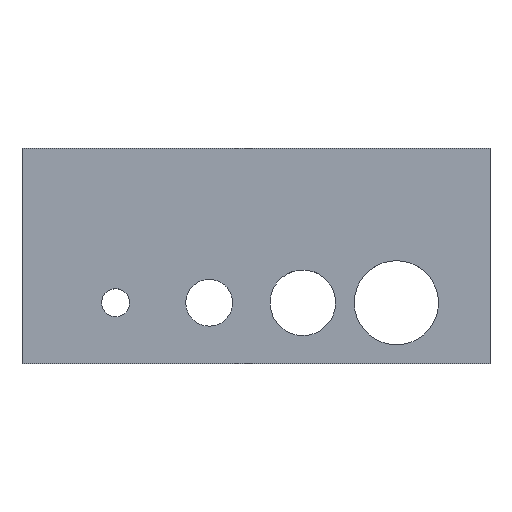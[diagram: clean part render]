
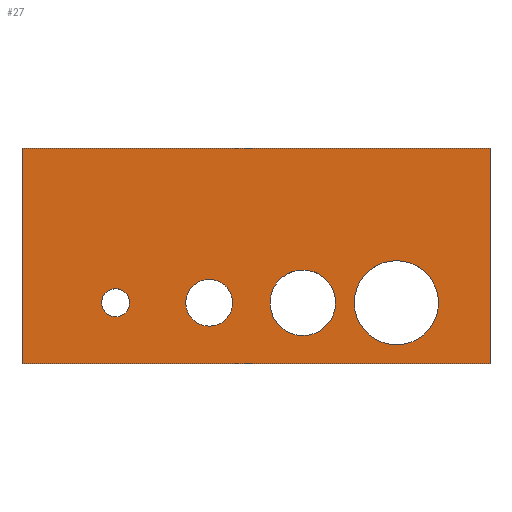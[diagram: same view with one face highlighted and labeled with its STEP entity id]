
A CAD part, top view. The second image highlights one B-rep face of the part: STEP entity #27.
In plain terms, the highlighted planar face has unit normal (0, 0, 1).
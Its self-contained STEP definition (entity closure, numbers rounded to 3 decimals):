
#18=FACE_BOUND('',#60,.T.);
#19=FACE_BOUND('',#61,.T.);
#20=FACE_BOUND('',#62,.T.);
#21=FACE_BOUND('',#63,.T.);
#27=ADVANCED_FACE('',(#41,#18,#19,#20,#21),#269,.T.);
#41=FACE_OUTER_BOUND('',#59,.T.);
#59=EDGE_LOOP('',(#100,#101,#102,#103));
#60=EDGE_LOOP('',(#104,#105));
#61=EDGE_LOOP('',(#106,#107));
#62=EDGE_LOOP('',(#108,#109));
#63=EDGE_LOOP('',(#110,#111));
#100=ORIENTED_EDGE('',*,*,#146,.T.);
#101=ORIENTED_EDGE('',*,*,#150,.T.);
#102=ORIENTED_EDGE('',*,*,#153,.T.);
#103=ORIENTED_EDGE('',*,*,#155,.T.);
#104=ORIENTED_EDGE('',*,*,#156,.T.);
#105=ORIENTED_EDGE('',*,*,#169,.T.);
#106=ORIENTED_EDGE('',*,*,#159,.T.);
#107=ORIENTED_EDGE('',*,*,#172,.T.);
#108=ORIENTED_EDGE('',*,*,#162,.T.);
#109=ORIENTED_EDGE('',*,*,#175,.T.);
#110=ORIENTED_EDGE('',*,*,#165,.T.);
#111=ORIENTED_EDGE('',*,*,#178,.T.);
#146=EDGE_CURVE('',#235,#234,#222,.T.);
#150=EDGE_CURVE('',#234,#237,#226,.T.);
#153=EDGE_CURVE('',#237,#239,#229,.T.);
#155=EDGE_CURVE('',#239,#235,#231,.T.);
#156=EDGE_CURVE('',#241,#248,#188,.T.);
#159=EDGE_CURVE('',#243,#250,#190,.T.);
#162=EDGE_CURVE('',#245,#252,#192,.T.);
#165=EDGE_CURVE('',#247,#254,#194,.T.);
#169=EDGE_CURVE('',#248,#241,#196,.T.);
#172=EDGE_CURVE('',#250,#243,#198,.T.);
#175=EDGE_CURVE('',#252,#245,#200,.T.);
#178=EDGE_CURVE('',#254,#247,#202,.T.);
#188=TRIMMED_CURVE($,#204,(#503),(#504),.T.,.CARTESIAN.);
#190=TRIMMED_CURVE($,#206,(#511),(#512),.T.,.CARTESIAN.);
#192=TRIMMED_CURVE($,#208,(#519),(#520),.T.,.CARTESIAN.);
#194=TRIMMED_CURVE($,#210,(#527),(#528),.T.,.CARTESIAN.);
#196=TRIMMED_CURVE($,#212,(#537),(#538),.T.,.CARTESIAN.);
#198=TRIMMED_CURVE($,#214,(#545),(#546),.T.,.CARTESIAN.);
#200=TRIMMED_CURVE($,#216,(#553),(#554),.T.,.CARTESIAN.);
#202=TRIMMED_CURVE($,#218,(#561),(#562),.T.,.CARTESIAN.);
#204=CIRCLE('',#372,1.5);
#206=CIRCLE('',#374,2.5);
#208=CIRCLE('',#376,3.5);
#210=CIRCLE('',#378,4.5);
#212=CIRCLE('',#380,1.5);
#214=CIRCLE('',#382,2.5);
#216=CIRCLE('',#384,3.5);
#218=CIRCLE('',#386,4.5);
#222=B_SPLINE_CURVE_WITH_KNOTS('',1,(#482,#483),.UNSPECIFIED.,.F.,.F.,(2,
2),(0.,23.),.UNSPECIFIED.);
#226=B_SPLINE_CURVE_WITH_KNOTS('',1,(#490,#491),.UNSPECIFIED.,.F.,.F.,(2,
2),(23.,73.),.UNSPECIFIED.);
#229=B_SPLINE_CURVE_WITH_KNOTS('',1,(#496,#497),.UNSPECIFIED.,.F.,.F.,(2,
2),(73.,96.),.UNSPECIFIED.);
#231=B_SPLINE_CURVE_WITH_KNOTS('',1,(#500,#501),.UNSPECIFIED.,.F.,.F.,(2,
2),(96.,146.),.UNSPECIFIED.);
#234=VERTEX_POINT('',#456);
#235=VERTEX_POINT('',#457);
#237=VERTEX_POINT('',#459);
#239=VERTEX_POINT('',#461);
#241=VERTEX_POINT('',#463);
#243=VERTEX_POINT('',#465);
#245=VERTEX_POINT('',#467);
#247=VERTEX_POINT('',#469);
#248=VERTEX_POINT('',#470);
#250=VERTEX_POINT('',#472);
#252=VERTEX_POINT('',#474);
#254=VERTEX_POINT('',#476);
#269=PLANE('',#363);
#363=AXIS2_PLACEMENT_3D('',#445,#396,$);
#372=AXIS2_PLACEMENT_3D($,#502,#405,#406);
#374=AXIS2_PLACEMENT_3D($,#510,#409,#410);
#376=AXIS2_PLACEMENT_3D($,#518,#413,#414);
#378=AXIS2_PLACEMENT_3D($,#526,#417,#418);
#380=AXIS2_PLACEMENT_3D($,#536,#421,#422);
#382=AXIS2_PLACEMENT_3D($,#544,#425,#426);
#384=AXIS2_PLACEMENT_3D($,#552,#429,#430);
#386=AXIS2_PLACEMENT_3D($,#560,#433,#434);
#396=DIRECTION('',(0.,0.,1.));
#405=DIRECTION('',(0.,0.,-1.));
#406=DIRECTION('',(1.,0.,0.));
#409=DIRECTION('',(0.,0.,-1.));
#410=DIRECTION('',(1.,0.,0.));
#413=DIRECTION('',(0.,0.,-1.));
#414=DIRECTION('',(1.,0.,0.));
#417=DIRECTION('',(0.,0.,-1.));
#418=DIRECTION('',(1.,0.,0.));
#421=DIRECTION('',(0.,0.,-1.));
#422=DIRECTION('',(-1.,0.,0.));
#425=DIRECTION('',(0.,0.,-1.));
#426=DIRECTION('',(-1.,0.,0.));
#429=DIRECTION('',(0.,0.,-1.));
#430=DIRECTION('',(-1.,0.,0.));
#433=DIRECTION('',(0.,0.,-1.));
#434=DIRECTION('',(-1.,0.,0.));
#445=CARTESIAN_POINT('',(977.831,2.796,14.));
#456=CARTESIAN_POINT('',(977.831,25.796,14.));
#457=CARTESIAN_POINT('',(977.831,2.796,14.));
#459=CARTESIAN_POINT('',(927.831,25.796,14.));
#461=CARTESIAN_POINT('',(927.831,2.796,14.));
#463=CARTESIAN_POINT('',(939.331,9.296,14.));
#465=CARTESIAN_POINT('',(950.331,9.296,14.));
#467=CARTESIAN_POINT('',(961.331,9.296,14.));
#469=CARTESIAN_POINT('',(972.331,9.296,14.));
#470=CARTESIAN_POINT('',(936.331,9.296,14.));
#472=CARTESIAN_POINT('',(945.331,9.296,14.));
#474=CARTESIAN_POINT('',(954.331,9.296,14.));
#476=CARTESIAN_POINT('',(963.331,9.296,14.));
#482=CARTESIAN_POINT('',(977.831,2.796,14.));
#483=CARTESIAN_POINT('',(977.831,25.796,14.));
#490=CARTESIAN_POINT('',(977.831,25.796,14.));
#491=CARTESIAN_POINT('',(927.831,25.796,14.));
#496=CARTESIAN_POINT('',(927.831,25.796,14.));
#497=CARTESIAN_POINT('',(927.831,2.796,14.));
#500=CARTESIAN_POINT('',(927.831,2.796,14.));
#501=CARTESIAN_POINT('',(977.831,2.796,14.));
#502=CARTESIAN_POINT('',(937.831,9.296,14.));
#503=CARTESIAN_POINT('',(939.331,9.296,14.));
#504=CARTESIAN_POINT('',(936.331,9.296,14.));
#510=CARTESIAN_POINT('',(947.831,9.296,14.));
#511=CARTESIAN_POINT('',(950.331,9.296,14.));
#512=CARTESIAN_POINT('',(945.331,9.296,14.));
#518=CARTESIAN_POINT('',(957.831,9.296,14.));
#519=CARTESIAN_POINT('',(961.331,9.296,14.));
#520=CARTESIAN_POINT('',(954.331,9.296,14.));
#526=CARTESIAN_POINT('',(967.831,9.296,14.));
#527=CARTESIAN_POINT('',(972.331,9.296,14.));
#528=CARTESIAN_POINT('',(963.331,9.296,14.));
#536=CARTESIAN_POINT('',(937.831,9.296,14.));
#537=CARTESIAN_POINT('',(936.331,9.296,14.));
#538=CARTESIAN_POINT('',(939.331,9.296,14.));
#544=CARTESIAN_POINT('',(947.831,9.296,14.));
#545=CARTESIAN_POINT('',(945.331,9.296,14.));
#546=CARTESIAN_POINT('',(950.331,9.296,14.));
#552=CARTESIAN_POINT('',(957.831,9.296,14.));
#553=CARTESIAN_POINT('',(954.331,9.296,14.));
#554=CARTESIAN_POINT('',(961.331,9.296,14.));
#560=CARTESIAN_POINT('',(967.831,9.296,14.));
#561=CARTESIAN_POINT('',(963.331,9.296,14.));
#562=CARTESIAN_POINT('',(972.331,9.296,14.));
